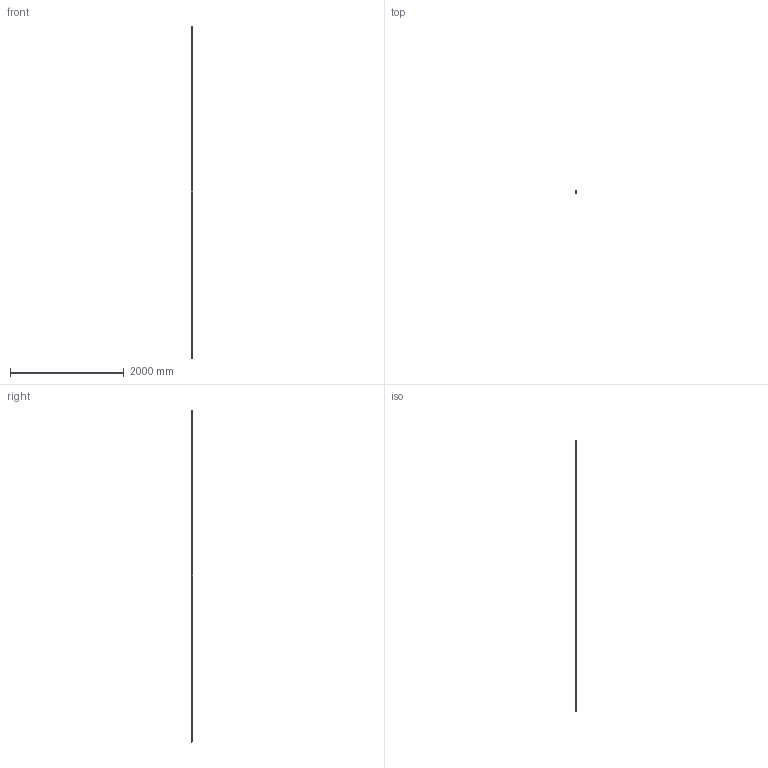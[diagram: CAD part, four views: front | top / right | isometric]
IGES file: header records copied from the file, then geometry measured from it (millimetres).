
Start section: 3D InterOp IGES (v. 2019 1.0.2), Spatial Corp. Copyright (c) 1999-2017.
Global section: file name: R1605.6_size25.igs; native system: Spatial Corp.; preprocessor: 3D InterOp GENERIC/IGES 3.0; author: Noname; organization: Noname; date: 20220629.163501; units: millimetre
Bounding box: 23 x 25.4 x 5827.11 mm (x, y, z)
Surface area: 886641.9 mm2 (no closed solid volume)
Topology: 0 solids, 0 shells, 1763 faces, 9548 edges, 9544 vertices
Faces by surface type: extrusion 1255, revolution 508
